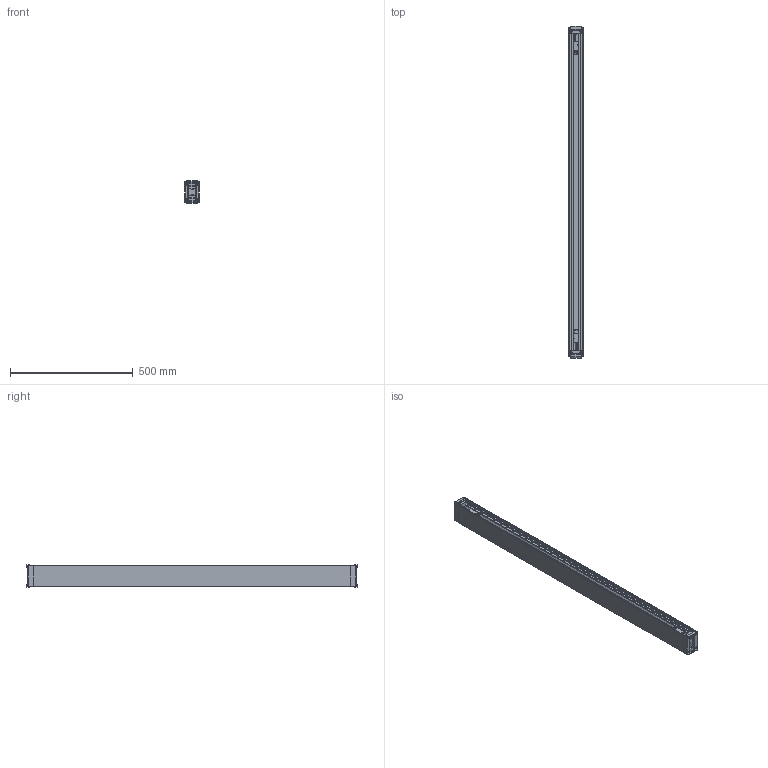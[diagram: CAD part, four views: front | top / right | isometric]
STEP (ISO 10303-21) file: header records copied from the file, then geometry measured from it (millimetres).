
FILE_DESCRIPTION (( 'STEP AP214' ), '1' );
FILE_NAME ('1001651.STEP', '2025-09-15T13:53:37', ( '' ), ( '' ), 'SwSTEP 2.0', 'SolidWorks 2025', '' );
FILE_SCHEMA (( 'AUTOMOTIVE_DESIGN' ));
Length unit declared in the file: millimetre
Products named in the file (1): 1001651
Bounding box: 60 x 1352.46 x 90 mm (x, y, z)
Volume: 2885882.3 mm3; surface area: 948810.6 mm2
Topology: 13 solids, 13 shells, 1307 faces, 3615 edges, 2362 vertices
Faces by surface type: plane 910, cylinder 306, torus 68, cone 9, bspline 8, sphere 6
Entity records: 41831 total; most frequent: CARTESIAN_POINT 7933, ORIENTED_EDGE 7206, DIRECTION 6838, EDGE_CURVE 3603, VECTOR 2828, LINE 2828, VERTEX_POINT 2356, AXIS2_PLACEMENT_3D 2005
